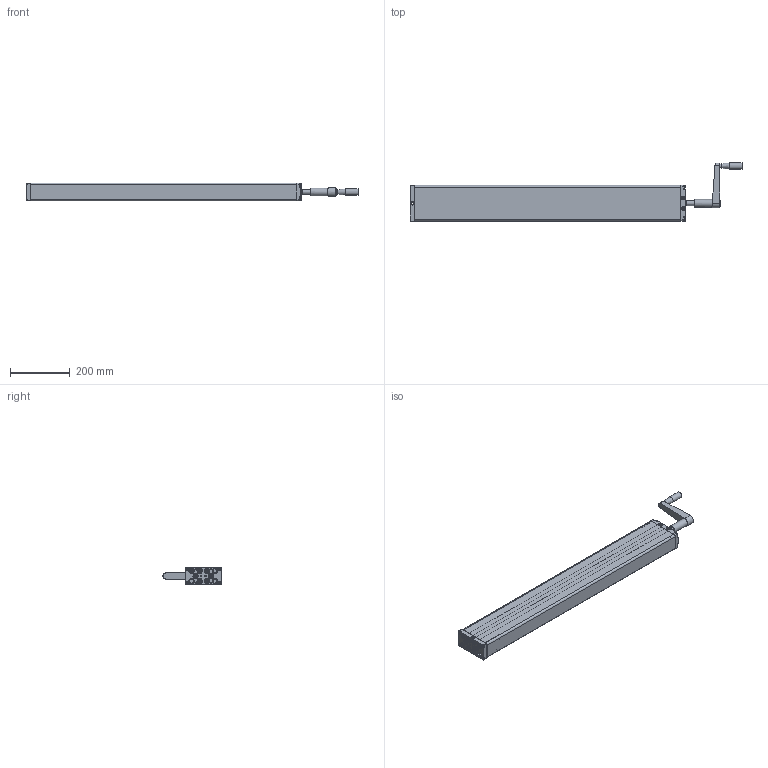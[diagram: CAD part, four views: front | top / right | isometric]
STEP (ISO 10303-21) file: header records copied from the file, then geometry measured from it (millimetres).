
FILE_DESCRIPTION(/* description */ ('Unknown'),/* implementation_level */ '2;1');
FILE_NAME(/* name */ '312.20294 Pumpe PB 7440 W mit Handkurbel',/* time_stamp */ '2016-11-25T11:56:07+01:00',/* author */ ('Unknown'),/* organization */ ('Unknown'),/* preprocessor_version */ 'ST-DEVELOPER v16.7',/* originating_system */ 'DEX',/* authorisation */ $);
FILE_SCHEMA (('AUTOMOTIVE_DESIGN {1 0 10303 214 3 1 1}'));
Products named in the file (22): 102.00294; 115.10027; 125.00031; 115.00007; 142.00021; 125.00021; 113.00005; 128.00001; 125.00052; 126.00013; 125.00053; 127.00014; Handgriff; 142.00013; 125.00147; 115.00140; 126.00006; 122.00040; 119.00047; 126.00036; 142.00057; 142.00017
Assembly tree (35 placements, depth 3):
  102.00294
    115.10027  x7
      125.00031
      115.00007
      142.00021
      125.00021
    113.00005
      128.00001
      125.00052
      126.00013
      125.00053
      127.00014
      Handgriff
    142.00013  x8
    125.00147
    115.00140
      126.00006
      122.00040
    119.00047
    126.00036
    142.00057
    142.00017  x2
Bounding box: 1113.75 x 195.5 x 60.3 mm (x, y, z)
Volume: 1229840.6 mm3; surface area: 812294.5 mm2
Topology: 43 solids, 43 shells, 2124 faces, 4857 edges, 2841 vertices
Faces by surface type: plane 751, cylinder 489, bspline 380, cone 347, torus 100, sphere 57
Full cylindrical faces by diameter (mm): 3.5 x7, 4 x2, 4.1 x7, 4.134 x4, 4.2 x8, 4.917 x4, 5 x8, 5.8 x4, 6 x2, 6.8 x1, 6.917 x14, 8 x16, 9 x7, 9.8 x8, 10 x6, 10.4 x1, 10.5 x4, 12.5 x7, 12.8 x1, 13 x25, 13.9 x14, 14 x1, 16 x2, 17 x1, 18 x11, 19 x1, 20.6 x1, 21 x1, 22 x1, 25.5 x1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
Entity records: 63555 total; most frequent: CARTESIAN_POINT 30443, ORIENTED_EDGE 5318, DIRECTION 4747, EDGE_CURVE 2659, AXIS2_PLACEMENT_3D 1849, VERTEX_POINT 1690, FACE_BOUND 1519, EDGE_LOOP 1516
